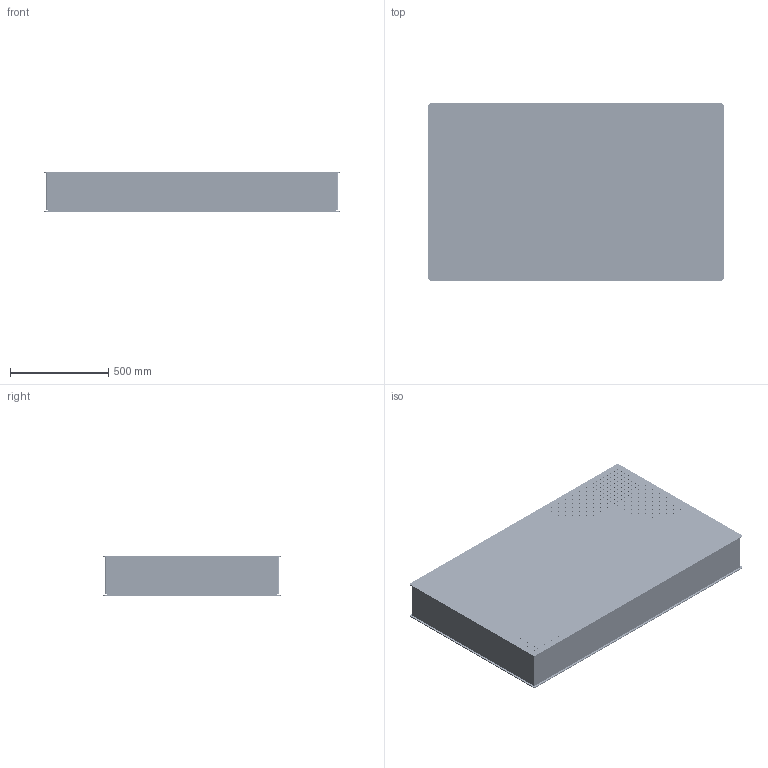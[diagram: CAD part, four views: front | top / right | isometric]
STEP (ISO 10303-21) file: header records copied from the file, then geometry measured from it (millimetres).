
FILE_DESCRIPTION (( 'STEP AP203' ), '1' );
FILE_NAME ('NTBH915-200 怢醱(AP203).STEP', '2021-05-10T01:37:24', ( '8615811166815' ), ( '' ), 'SwSTEP 2.0', 'SolidWorks 2017', '' );
FILE_SCHEMA (( 'CONFIG_CONTROL_DESIGN' ));
Length unit declared in the file: millimetre
Products named in the file (1): NTBH915-200 怢醱(AP203)
Bounding box: 1500 x 900 x 200 mm (x, y, z)
Surface area: 6518303.8 mm2 (no closed solid volume)
Topology: 0 solids, 30 shells, 3908 faces, 12164 edges, 8288 vertices
Faces by surface type: cylinder 3844, plane 64
Entity records: 148310 total; most frequent: DIRECTION 27894, CARTESIAN_POINT 24361, ORIENTED_EDGE 23736, EDGE_CURVE 12164, AXIS2_PLACEMENT_3D 11821, VERTEX_POINT 8288, CIRCLE 7912, EDGE_LOOP 7852
